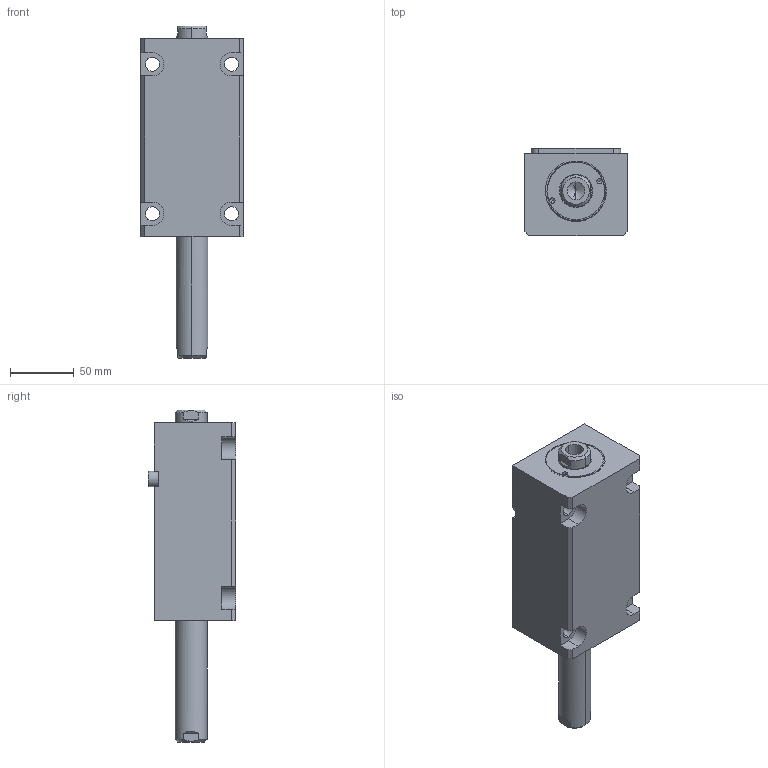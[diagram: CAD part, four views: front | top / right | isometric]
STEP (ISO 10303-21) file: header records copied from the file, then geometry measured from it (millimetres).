
FILE_DESCRIPTION (( 'STEP AP214' ), '1' );
FILE_NAME ('chtb-lwm40x85n_asm.STEP', '2018-05-30T08:26:09', ( 'Windows' ), ( 'Microsoft' ), 'SwSTEP 2.0', 'SolidWorks 2015', '' );
FILE_SCHEMA (( 'AUTOMOTIVE_DESIGN' ));
Length unit declared in the file: millimetre
Products named in the file (5): CHTB-SD40QG; CHTB-LA40PJ; CHTB-SW40X85NHSG; CHTB-LWM40X85NBT; chtb-lwm40x85n_asm
Assembly tree (4 placements, depth 2):
  chtb-lwm40x85n_asm
    CHTB-LWM40X85NBT
    CHTB-SW40X85NHSG
    CHTB-LA40PJ
    CHTB-SD40QG
Bounding box: 80 x 68.5 x 260 mm (x, y, z)
Volume: 738492 mm3; surface area: 119873.3 mm2
Topology: 4 solids, 4 shells, 166 faces, 450 edges, 296 vertices
Faces by surface type: cylinder 77, plane 50, bspline 14, cone 13, torus 12
Entity records: 10488 total; most frequent: CARTESIAN_POINT 6156, ORIENTED_EDGE 880, DIRECTION 821, EDGE_CURVE 440, AXIS2_PLACEMENT_3D 326, VERTEX_POINT 296, EDGE_LOOP 196, LINE 169
